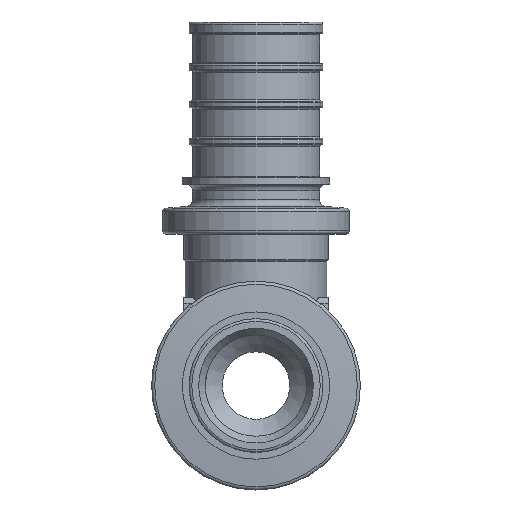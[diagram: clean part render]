
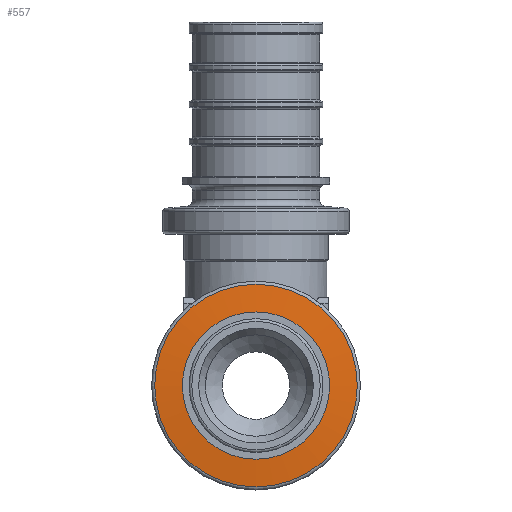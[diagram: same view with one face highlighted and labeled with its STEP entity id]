
A CAD part, front view. The second image highlights one B-rep face of the part: STEP entity #557.
In plain terms, the highlighted conical face has half-angle 85 degrees and reference radius 12.653 mm.
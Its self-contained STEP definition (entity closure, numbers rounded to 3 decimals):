
#557=ADVANCED_FACE('',(#4312,#4314),#4316,.T.);
#4312=FACE_OUTER_BOUND('',#4313,.T.);
#4313=EDGE_LOOP('',(#7416));
#4314=FACE_OUTER_BOUND('',#4315,.T.);
#4315=EDGE_LOOP('',(#7417));
#4316=CONICAL_SURFACE('',#4317,12.653,1.484);
#4317=AXIS2_PLACEMENT_3D('',#4318,#4319,#4320);
#4318=CARTESIAN_POINT('',(0.,-26.445,0.));
#4319=DIRECTION('',(0.,1.,0.));
#4320=DIRECTION('',(-1.,0.,0.));
#7416=ORIENTED_EDGE('',*,*,#9707,.T.);
#7417=ORIENTED_EDGE('',*,*,#9708,.T.);
#9707=EDGE_CURVE('',#10751,#10751,#10752,.T.);
#9708=EDGE_CURVE('',#10753,#10753,#10754,.F.);
#10751=VERTEX_POINT('',#12680);
#10752=CIRCLE('',#12681,14.994);
#10753=VERTEX_POINT('',#12685);
#10754=CIRCLE('',#12686,10.313);
#12680=CARTESIAN_POINT('',(14.994,-26.24,0.));
#12681=AXIS2_PLACEMENT_3D('',#12682,#12683,#12684);
#12682=CARTESIAN_POINT('',(0.,-26.24,0.));
#12683=DIRECTION('',(0.,-1.,0.));
#12684=DIRECTION('',(1.,0.,0.));
#12685=CARTESIAN_POINT('',(10.313,-26.649,0.));
#12686=AXIS2_PLACEMENT_3D('',#12687,#12688,#12689);
#12687=CARTESIAN_POINT('',(0.,-26.649,0.));
#12688=DIRECTION('',(0.,-1.,0.));
#12689=DIRECTION('',(1.,0.,0.));
